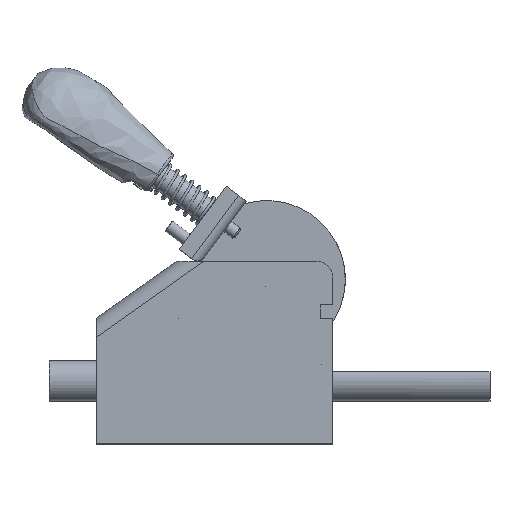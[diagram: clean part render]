
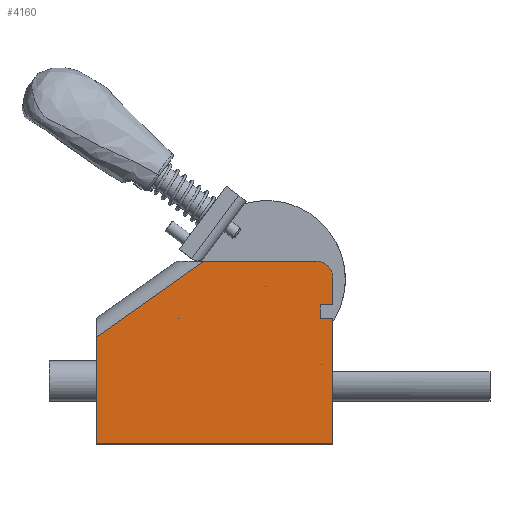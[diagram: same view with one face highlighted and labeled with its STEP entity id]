
A CAD part, top view. The second image highlights one B-rep face of the part: STEP entity #4160.
In plain terms, the highlighted planar face has unit normal (0, 0, 1).
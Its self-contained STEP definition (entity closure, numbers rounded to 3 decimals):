
#314=FACE_BOUND('',#792,.T.);
#315=FACE_BOUND('',#793,.T.);
#316=FACE_BOUND('',#794,.T.);
#368=CIRCLE('',#4579,5.);
#369=CIRCLE('',#4580,0.005);
#370=CIRCLE('',#4581,0.005);
#371=CIRCLE('',#4582,0.005);
#559=FACE_OUTER_BOUND('',#791,.T.);
#791=EDGE_LOOP('',(#2817,#2818,#2819,#2820,#2821,#2822,#2823,#2824,#2825,
#2826));
#792=EDGE_LOOP('',(#2827));
#793=EDGE_LOOP('',(#2828));
#794=EDGE_LOOP('',(#2829));
#1067=LINE('',#6178,#1401);
#1071=LINE('',#6185,#1405);
#1078=LINE('',#6200,#1412);
#1090=LINE('',#6231,#1424);
#1091=LINE('',#6235,#1425);
#1092=LINE('',#6237,#1426);
#1093=LINE('',#6239,#1427);
#1094=LINE('',#6241,#1428);
#1095=LINE('',#6242,#1429);
#1401=VECTOR('',#4997,10.);
#1405=VECTOR('',#5003,10.);
#1412=VECTOR('',#5014,10.);
#1424=VECTOR('',#5040,10.);
#1425=VECTOR('',#5043,10.);
#1426=VECTOR('',#5044,10.);
#1427=VECTOR('',#5045,10.);
#1428=VECTOR('',#5046,10.);
#1429=VECTOR('',#5047,10.);
#1735=VERTEX_POINT('',#6175);
#1736=VERTEX_POINT('',#6177);
#1738=VERTEX_POINT('',#6183);
#1744=VERTEX_POINT('',#6198);
#1756=VERTEX_POINT('',#6230);
#1757=VERTEX_POINT('',#6232);
#1758=VERTEX_POINT('',#6234);
#1759=VERTEX_POINT('',#6236);
#1760=VERTEX_POINT('',#6238);
#1761=VERTEX_POINT('',#6240);
#1762=VERTEX_POINT('',#6243);
#1763=VERTEX_POINT('',#6245);
#1764=VERTEX_POINT('',#6247);
#2155=EDGE_CURVE('',#1736,#1735,#1067,.T.);
#2159=EDGE_CURVE('',#1735,#1738,#1071,.T.);
#2166=EDGE_CURVE('',#1738,#1744,#1078,.T.);
#2181=EDGE_CURVE('',#1756,#1744,#1090,.T.);
#2182=EDGE_CURVE('',#1757,#1756,#368,.T.);
#2183=EDGE_CURVE('',#1758,#1757,#1091,.T.);
#2184=EDGE_CURVE('',#1759,#1758,#1092,.T.);
#2185=EDGE_CURVE('',#1760,#1759,#1093,.T.);
#2186=EDGE_CURVE('',#1761,#1760,#1094,.T.);
#2187=EDGE_CURVE('',#1736,#1761,#1095,.T.);
#2188=EDGE_CURVE('',#1762,#1762,#369,.T.);
#2189=EDGE_CURVE('',#1763,#1763,#370,.T.);
#2190=EDGE_CURVE('',#1764,#1764,#371,.T.);
#2817=ORIENTED_EDGE('',*,*,#2155,.T.);
#2818=ORIENTED_EDGE('',*,*,#2159,.T.);
#2819=ORIENTED_EDGE('',*,*,#2166,.T.);
#2820=ORIENTED_EDGE('',*,*,#2181,.F.);
#2821=ORIENTED_EDGE('',*,*,#2182,.F.);
#2822=ORIENTED_EDGE('',*,*,#2183,.F.);
#2823=ORIENTED_EDGE('',*,*,#2184,.F.);
#2824=ORIENTED_EDGE('',*,*,#2185,.F.);
#2825=ORIENTED_EDGE('',*,*,#2186,.F.);
#2826=ORIENTED_EDGE('',*,*,#2187,.F.);
#2827=ORIENTED_EDGE('',*,*,#2188,.T.);
#2828=ORIENTED_EDGE('',*,*,#2189,.T.);
#2829=ORIENTED_EDGE('',*,*,#2190,.T.);
#4047=PLANE('',#4578);
#4160=ADVANCED_FACE('',(#559,#314,#315,#316),#4047,.T.);
#4578=AXIS2_PLACEMENT_3D('',#6229,#5038,#5039);
#4579=AXIS2_PLACEMENT_3D('',#6233,#5041,#5042);
#4580=AXIS2_PLACEMENT_3D('',#6244,#5048,#5049);
#4581=AXIS2_PLACEMENT_3D('',#6246,#5050,#5051);
#4582=AXIS2_PLACEMENT_3D('',#6248,#5052,#5053);
#4997=DIRECTION('',(-1.,0.,0.));
#5003=DIRECTION('',(0.,1.,0.));
#5014=DIRECTION('',(1.,0.,0.));
#5038=DIRECTION('center_axis',(0.,0.,1.));
#5039=DIRECTION('ref_axis',(1.,0.,0.));
#5040=DIRECTION('',(0.,-1.,0.));
#5041=DIRECTION('center_axis',(0.,0.,-1.));
#5042=DIRECTION('ref_axis',(0.707,0.707,0.));
#5043=DIRECTION('',(1.,0.,0.));
#5044=DIRECTION('',(0.816,0.578,0.));
#5045=DIRECTION('',(0.,1.,0.));
#5046=DIRECTION('',(-1.,0.,0.));
#5047=DIRECTION('',(0.,-1.,0.));
#5048=DIRECTION('center_axis',(0.,0.,-1.));
#5049=DIRECTION('ref_axis',(-1.,0.,0.));
#5050=DIRECTION('center_axis',(0.,0.,-1.));
#5051=DIRECTION('ref_axis',(-1.,0.,0.));
#5052=DIRECTION('center_axis',(0.,0.,-1.));
#5053=DIRECTION('ref_axis',(-1.,0.,0.));
#6175=CARTESIAN_POINT('',(36.411,14.735,20.));
#6177=CARTESIAN_POINT('',(40.411,14.735,20.));
#6178=CARTESIAN_POINT('',(20.711,14.735,20.));
#6183=CARTESIAN_POINT('',(36.411,19.135,20.));
#6185=CARTESIAN_POINT('',(36.411,10.601,20.));
#6198=CARTESIAN_POINT('',(40.411,19.135,20.));
#6200=CARTESIAN_POINT('',(22.711,19.135,20.));
#6229=CARTESIAN_POINT('Origin',(5.011,2.066,20.));
#6230=CARTESIAN_POINT('',(40.411,27.935,20.));
#6231=CARTESIAN_POINT('',(40.411,-25.065,20.));
#6232=CARTESIAN_POINT('',(35.411,32.935,20.));
#6233=CARTESIAN_POINT('Origin',(35.411,27.935,20.));
#6234=CARTESIAN_POINT('',(-0.514,32.935,20.));
#6235=CARTESIAN_POINT('',(40.411,32.935,20.));
#6236=CARTESIAN_POINT('',(-34.589,8.809,20.));
#6237=CARTESIAN_POINT('',(-21.546,18.044,20.));
#6238=CARTESIAN_POINT('',(-34.589,-25.065,20.));
#6239=CARTESIAN_POINT('',(-34.589,14.935,20.));
#6240=CARTESIAN_POINT('',(40.411,-25.065,20.));
#6241=CARTESIAN_POINT('',(-34.589,-25.065,20.));
#6242=CARTESIAN_POINT('',(40.411,-25.065,20.));
#6243=CARTESIAN_POINT('',(-8.584,14.835,20.));
#6244=CARTESIAN_POINT('Origin',(-8.589,14.835,20.));
#6245=CARTESIAN_POINT('',(36.916,0.035,20.));
#6246=CARTESIAN_POINT('Origin',(36.911,0.035,20.));
#6247=CARTESIAN_POINT('',(19.216,24.935,20.));
#6248=CARTESIAN_POINT('Origin',(19.211,24.935,20.));
